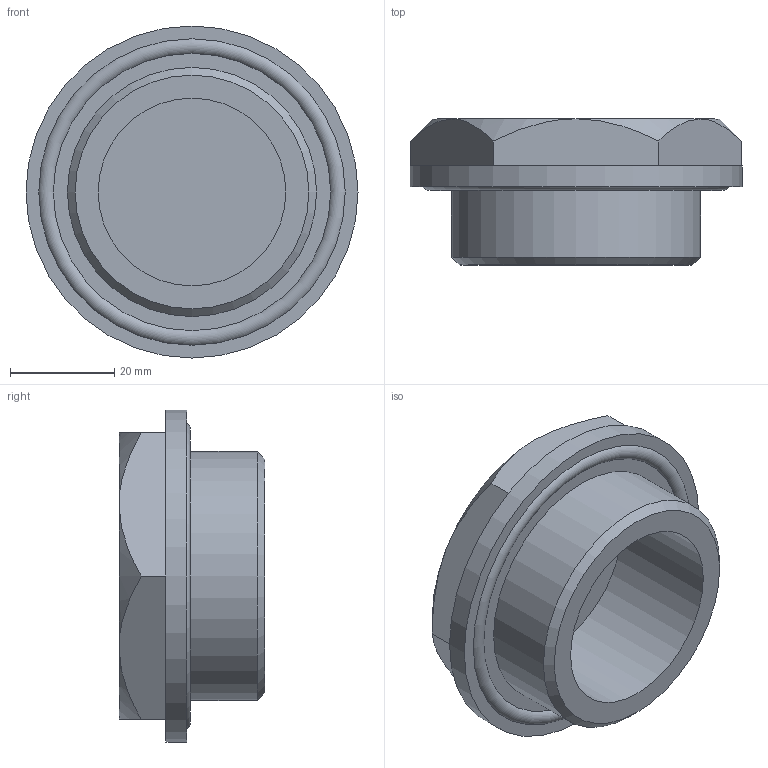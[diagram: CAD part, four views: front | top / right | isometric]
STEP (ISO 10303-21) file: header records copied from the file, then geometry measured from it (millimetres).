
FILE_DESCRIPTION( ( 'STEP AP203' ), '1' );
FILE_NAME( 'C:/Temp/Ganter_Step_05_03_2020/data/3_5/gn740_2/Threaded plug GN 740.2-G11_2.stp', '2020-03-12T13:43:57', ( 'License CC BY-ND 4.0' ), ( 'CADENAS' ), ' ', 'PARTsolutions', ' ' );
FILE_SCHEMA( ( 'CONFIG_CONTROL_DESIGN' ) );
Length unit declared in the file: millimetre
Products named in the file (1): _Threaded plug GN 740.2-G11/2
Bounding box: 63.7 x 28 x 63.7 mm (x, y, z)
Volume: 39474.8 mm3; surface area: 13523.4 mm2
Topology: 1 solids, 1 shells, 52 faces, 124 edges, 81 vertices
Faces by surface type: plane 40, cone 7, cylinder 4, torus 1
Full cylindrical faces by diameter (mm): 36 x1, 46 x1, 47.803 x1, 63.7 x1
Entity records: 1569 total; most frequent: CARTESIAN_POINT 360, ORIENTED_EDGE 232, DIRECTION 227, EDGE_CURVE 116, LINE 87, VECTOR 87, VERTEX_POINT 79, AXIS2_PLACEMENT_3D 70
